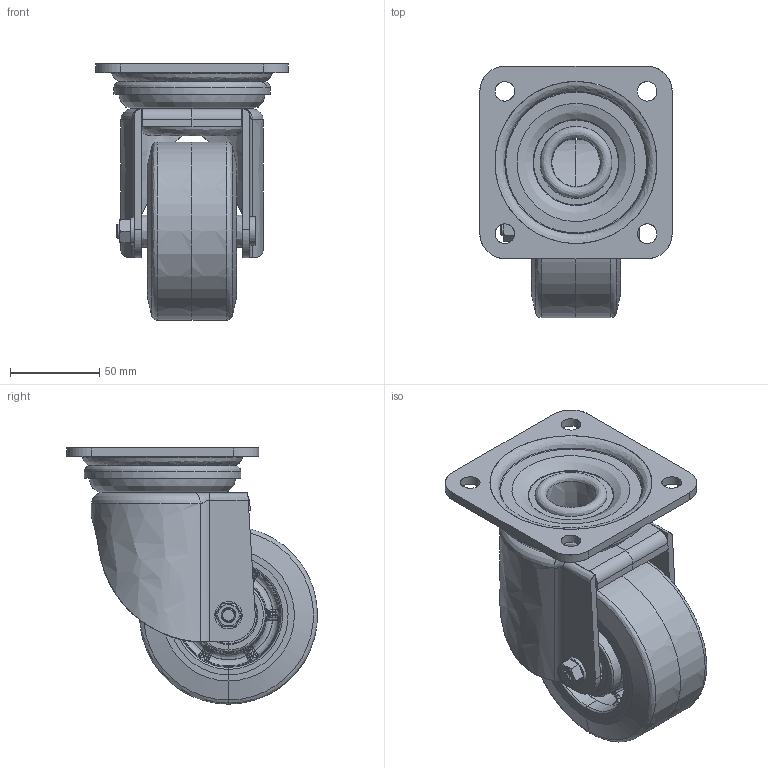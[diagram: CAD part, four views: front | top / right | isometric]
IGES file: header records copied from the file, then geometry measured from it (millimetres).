
Start section: JAMA-IS VERSION  1.0
Global section: file name: E:\tools-models\その他メーカー2\INOAC車輪\7月\HP-100WJ\HP-100WJ-ALL.igs; native system: CAM-TOOL; preprocessor: C3out Version 11.1.1.50212 (2015/02/12); author: NONE; organization: NONE; date: 200704.165321; units: millimetre
Bounding box: 108 x 141 x 144 mm (x, y, z)
Surface area: 181226.9 mm2 (no closed solid volume)
Topology: 0 solids, 0 shells, 651 faces, 5013 edges, 5025 vertices
Faces by surface type: bspline 651
